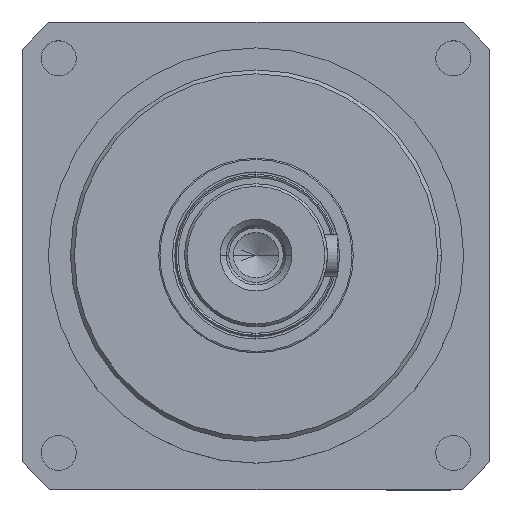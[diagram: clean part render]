
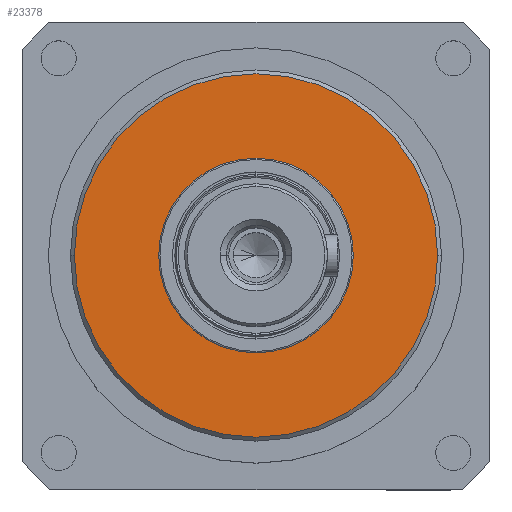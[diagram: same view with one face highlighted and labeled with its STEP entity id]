
A CAD part, top view. The second image highlights one B-rep face of the part: STEP entity #23378.
In plain terms, the highlighted planar face has unit normal (0, 0, 1).
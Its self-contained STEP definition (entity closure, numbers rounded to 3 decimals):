
#1129 = CARTESIAN_POINT ( 'NONE',  ( 37.5, 0., 0. ) ) ;
#1799 = DIRECTION ( 'NONE',  ( 1., 0., 0. ) ) ;
#1824 = DIRECTION ( 'NONE',  ( 0., 0., 1. ) ) ;
#1831 = CARTESIAN_POINT ( 'NONE',  ( 0., 0., 0. ) ) ;
#2297 = ORIENTED_EDGE ( 'NONE', *, *, #31577, .F. ) ;
#2702 = DIRECTION ( 'NONE',  ( 0., 0., 1. ) ) ;
#2867 = FACE_BOUND ( 'NONE', #36683, .T. ) ;
#3141 = FACE_OUTER_BOUND ( 'NONE', #22848, .T. ) ;
#4504 = CARTESIAN_POINT ( 'NONE',  ( 0., 0., 0. ) ) ;
#6355 = CARTESIAN_POINT ( 'NONE',  ( 70., 0., 0. ) ) ;
#7629 = DIRECTION ( 'NONE',  ( -1., 0., 0. ) ) ;
#9171 = CIRCLE ( 'NONE', #19130, 37.5 ) ;
#9299 = DIRECTION ( 'NONE',  ( 0., 0., -1. ) ) ;
#12260 = CIRCLE ( 'NONE', #23860, 70. ) ;
#12795 = CIRCLE ( 'NONE', #21553, 70. ) ;
#13359 = VERTEX_POINT ( 'NONE', #37808 ) ;
#14840 = EDGE_CURVE ( 'NONE', #22414, #22944, #21213, .T. ) ;
#17011 = AXIS2_PLACEMENT_3D ( 'NONE', #17606, #17377, #17323 ) ;
#17323 = DIRECTION ( 'NONE',  ( -1., 0., 0. ) ) ;
#17377 = DIRECTION ( 'NONE',  ( 0., 0., -1. ) ) ;
#17606 = CARTESIAN_POINT ( 'NONE',  ( 0., 70., 0. ) ) ;
#17652 = PLANE ( 'NONE',  #17011 ) ;
#19130 = AXIS2_PLACEMENT_3D ( 'NONE', #21662, #2702, #24872 ) ;
#19767 = ORIENTED_EDGE ( 'NONE', *, *, #35635, .F. ) ;
#21213 = CIRCLE ( 'NONE', #31192, 37.5 ) ;
#21553 = AXIS2_PLACEMENT_3D ( 'NONE', #4504, #26740, #7629 ) ;
#21662 = CARTESIAN_POINT ( 'NONE',  ( 0., 0., 0. ) ) ;
#22414 = VERTEX_POINT ( 'NONE', #1129 ) ;
#22848 = EDGE_LOOP ( 'NONE', ( #2297, #19767 ) ) ;
#22944 = VERTEX_POINT ( 'NONE', #30336 ) ;
#23378 = ADVANCED_FACE ( 'b', ( #2867, #3141 ), #17652, .F. ) ;
#23860 = AXIS2_PLACEMENT_3D ( 'NONE', #28367, #9299, #31473 ) ;
#24872 = DIRECTION ( 'NONE',  ( 1., 0., 0. ) ) ;
#26740 = DIRECTION ( 'NONE',  ( 0., 0., -1. ) ) ;
#28367 = CARTESIAN_POINT ( 'NONE',  ( 0., 0., 0. ) ) ;
#29864 = ORIENTED_EDGE ( 'NONE', *, *, #33703, .F. ) ;
#30336 = CARTESIAN_POINT ( 'NONE',  ( -37.5, 0., 0. ) ) ;
#30602 = VERTEX_POINT ( 'NONE', #6355 ) ;
#31192 = AXIS2_PLACEMENT_3D ( 'NONE', #1831, #1824, #1799 ) ;
#31473 = DIRECTION ( 'NONE',  ( -1., 0., 0. ) ) ;
#31577 = EDGE_CURVE ( 'NONE', #13359, #30602, #12260, .T. ) ;
#33703 = EDGE_CURVE ( 'NONE', #22944, #22414, #9171, .T. ) ;
#35635 = EDGE_CURVE ( 'NONE', #30602, #13359, #12795, .T. ) ;
#36422 = ORIENTED_EDGE ( 'NONE', *, *, #14840, .F. ) ;
#36683 = EDGE_LOOP ( 'NONE', ( #36422, #29864 ) ) ;
#37808 = CARTESIAN_POINT ( 'NONE',  ( -70., 0., 0. ) ) ;
